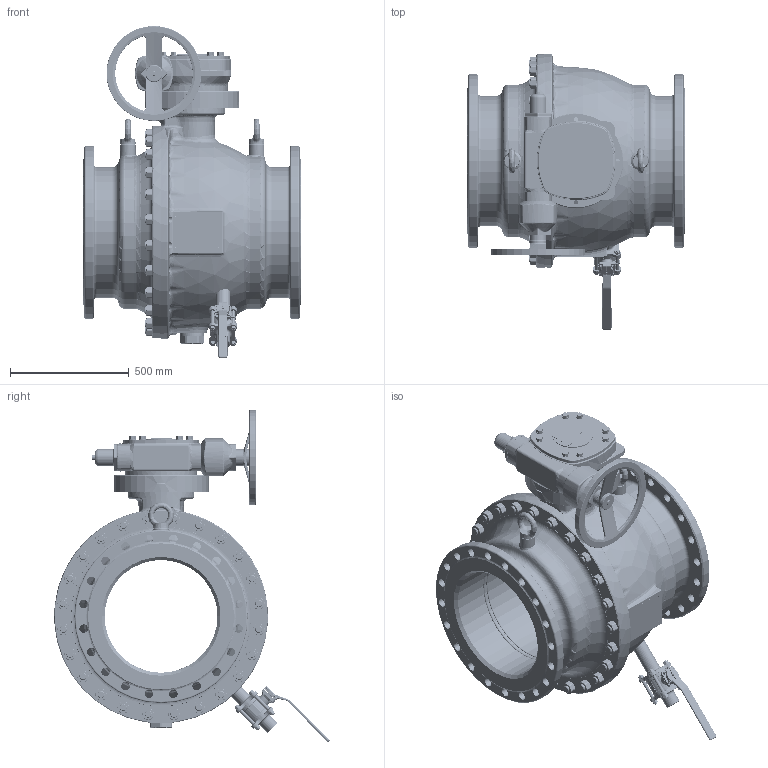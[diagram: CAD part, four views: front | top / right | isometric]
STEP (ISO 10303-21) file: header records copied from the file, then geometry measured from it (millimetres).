
FILE_DESCRIPTION((''),'2;1');
FILE_NAME('KHIFL500VFL500P025MKK_SW0001','2014-09-04T',('schwaba'),('RAND'),'PRO/ENGINEER BY PARAMETRIC TECHNOLOGY CORPORATION, 2013410','PRO/ENGINEER BY PARAMETRIC TECHNOLOGY CORPORATION, 2013410','');
FILE_SCHEMA(('CONFIG_CONTROL_DESIGN'));
Products named in the file (1): KHIFL500VFL500P025MKK_SW0001
Bounding box: 914 x 1159.54 x 1397.94 mm (x, y, z)
Volume: 170561146.2 mm3; surface area: 11460106.8 mm2
Topology: 3 solids, 17 shells, 5948 faces, 15474 edges, 9552 vertices
Faces by surface type: plane 2485, cylinder 1259, cone 794, bspline 771, torus 578, sphere 61
Entity records: 395384 total; most frequent: CARTESIAN_POINT 254871, ORIENTED_EDGE 30816, DIRECTION 27856, EDGE_CURVE 15408, AXIS2_PLACEMENT_3D 10429, VERTEX_POINT 9552, VECTOR 6998, LINE 6998
